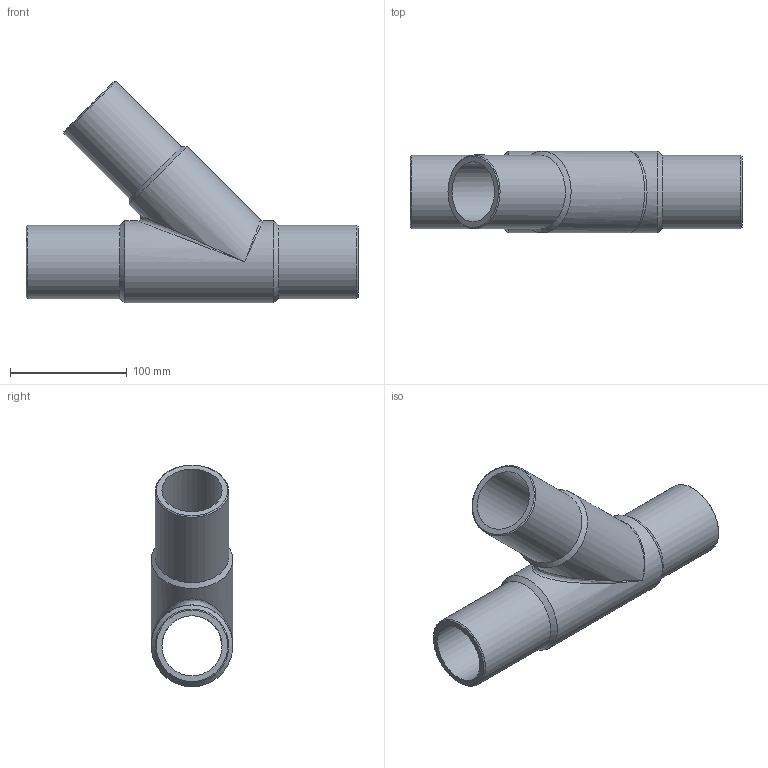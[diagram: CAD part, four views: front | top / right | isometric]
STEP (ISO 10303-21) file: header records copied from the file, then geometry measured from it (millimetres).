
FILE_DESCRIPTION(/* description */ ('Unknown'),/* implementation_level */ '2;1');
FILE_NAME(/* name */ 'T4P063C',/* time_stamp */ '2022-02-23T10:52:22+01:00',/* author */ ('Unknown'),/* organization */ ('Unknown'),/* preprocessor_version */ 'ST-DEVELOPER v18.1',/* originating_system */ 'Solid Edge',/* authorisation */ 'Unknown');
FILE_SCHEMA (('AUTOMOTIVE_DESIGN {1 0 10303 214 3 1 1}'));
Length unit declared in the file: millimetre
Products named in the file (1): T4P063C
Bounding box: 284 x 70 x 189.5 mm (x, y, z)
Volume: 568202 mm3; surface area: 156828.7 mm2
Topology: 1 solids, 1 shells, 18 faces, 47 edges, 26 vertices
Faces by surface type: cylinder 7, cone 6, plane 3, bspline 2
Full cylindrical faces by diameter (mm): 51.4 x2, 63 x3, 70 x2
Entity records: 516 total; most frequent: CARTESIAN_POINT 159, DIRECTION 76, ORIENTED_EDGE 42, AXIS2_PLACEMENT_3D 38, EDGE_LOOP 36, FACE_BOUND 36, EDGE_CURVE 21, VERTEX_POINT 19
